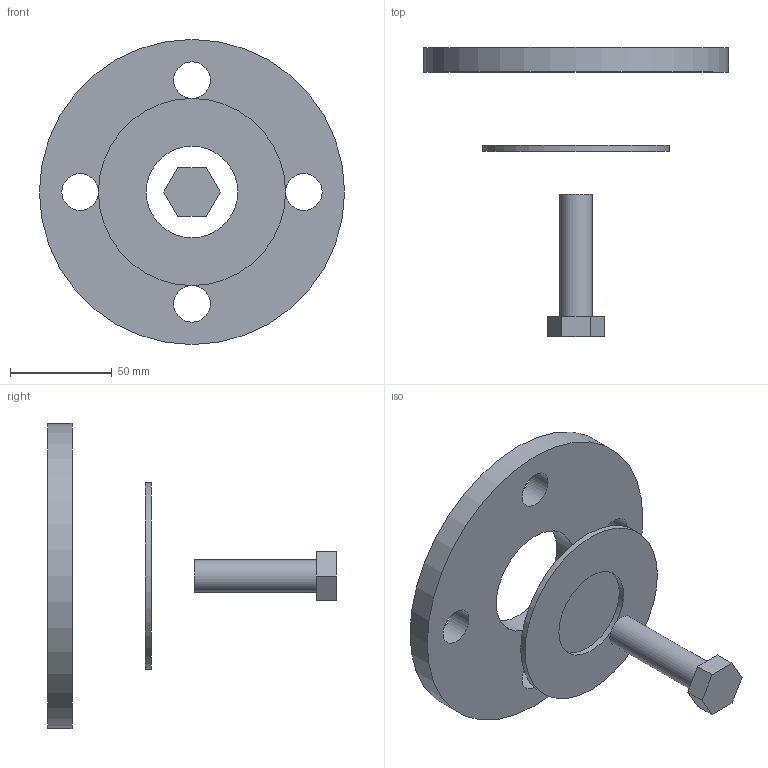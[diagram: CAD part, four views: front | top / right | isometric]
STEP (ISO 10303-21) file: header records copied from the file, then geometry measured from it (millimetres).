
FILE_DESCRIPTION( ( 'STEP AP214' ), '1' );
FILE_NAME( 'C:/Users/ilukic/Documents/ex/gebaudeentwasserung/pe/Geberit PE flange set/361746.stp', '2020-03-26T18:42:20', ( '' ), ( '' ), ' ', 'PARTsolutions', ' ' );
FILE_SCHEMA( ( 'AUTOMOTIVE_DESIGN { 1 0 10303 214 1 1 1 1 }' ) );
Length unit declared in the file: millimetre
Products named in the file (4): 361746; _361746_flange1; _361746_flange2; _361746_bolt
Assembly tree (3 placements, depth 2):
  361746
    _361746_flange1
    _361746_flange2
    _361746_bolt
Bounding box: 150 x 142 x 150 mm (x, y, z)
Volume: 204583.9 mm3; surface area: 55382.2 mm2
Topology: 3 solids, 3 shells, 22 faces, 45 edges, 30 vertices
Faces by surface type: plane 13, cylinder 9
Full cylindrical faces by diameter (mm): 16 x1, 18 x4, 45 x1, 54 x1, 92 x1, 150 x1
Entity records: 812 total; most frequent: DIRECTION 106, CARTESIAN_POINT 92, ORIENTED_EDGE 72, AXIS2_PLACEMENT_3D 44, EDGE_LOOP 44, EDGE_CURVE 36, FACE_OUTER_BOUND 31, VERTEX_POINT 30
